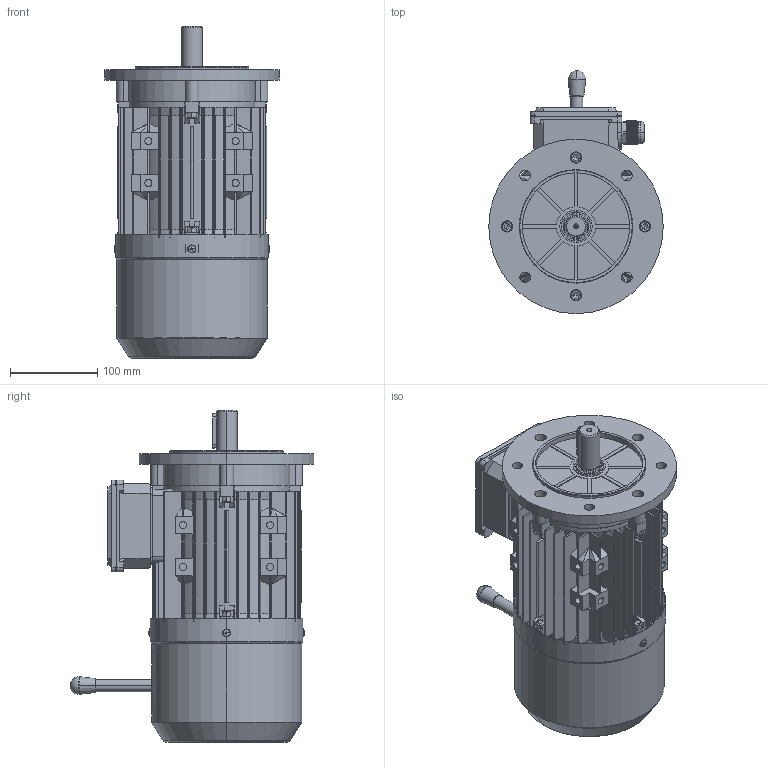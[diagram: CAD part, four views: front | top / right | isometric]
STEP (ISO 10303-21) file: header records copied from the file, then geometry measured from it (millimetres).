
FILE_DESCRIPTION (( 'STEP AP214' ), '1' );
FILE_NAME ('BCL0110.09I605.11.STEP', '2020-04-22T16:16:30', ( '' ), ( '' ), 'SwSTEP 2.0', 'SolidWorks 2019', '' );
FILE_SCHEMA (( 'AUTOMOTIVE_DESIGN' ));
Length unit declared in the file: millimetre
Products named in the file (1): BCL0110.09I605.11
Bounding box: 200 x 279.39 x 380.61 mm (x, y, z)
Volume: 1491831 mm3; surface area: 836240.1 mm2
Topology: 30 solids, 30 shells, 2853 faces, 7444 edges, 4704 vertices
Faces by surface type: plane 1893, cylinder 614, cone 229, torus 63, sphere 44, bspline 10
Entity records: 92873 total; most frequent: CARTESIAN_POINT 22952, ORIENTED_EDGE 14772, DIRECTION 13861, EDGE_CURVE 7386, VERTEX_POINT 4702, VECTOR 4665, LINE 4665, AXIS2_PLACEMENT_3D 4598
